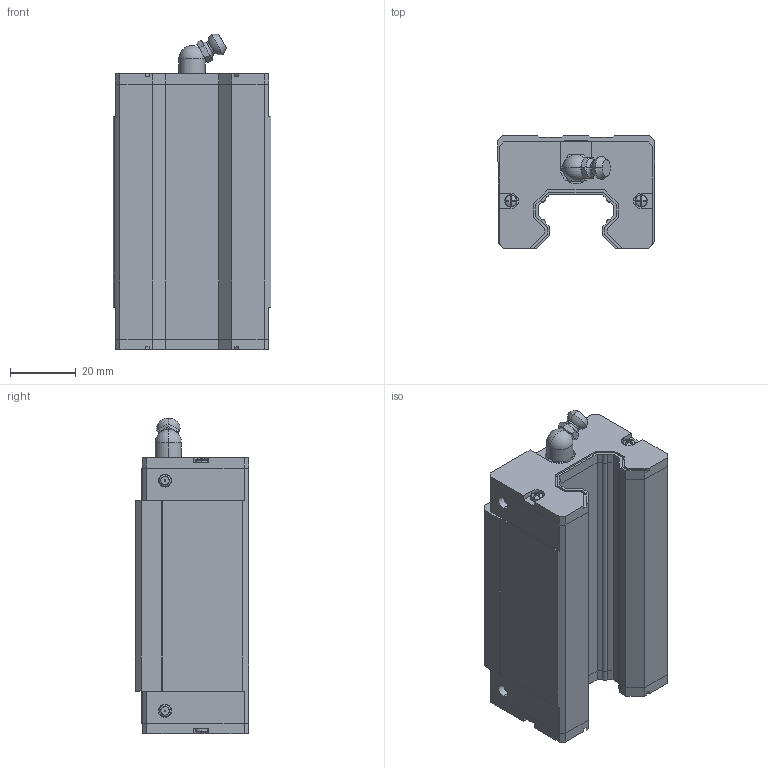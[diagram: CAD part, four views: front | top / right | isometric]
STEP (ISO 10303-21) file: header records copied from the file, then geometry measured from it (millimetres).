
FILE_DESCRIPTION (( 'STEP AP203' ), '1' );
FILE_NAME ('HGH25CA.STEP', '2021-10-22T07:51:30', ( '微软用户' ), ( '微软中国' ), 'SwSTEP 2.0', 'SolidWorks 2012', '' );
FILE_SCHEMA (( 'CONFIG_CONTROL_DESIGN' ));
Length unit declared in the file: millimetre
Products named in the file (1): HGH25CA
Bounding box: 48 x 34.4 x 96 mm (x, y, z)
Volume: 105083.5 mm3; surface area: 25343.1 mm2
Topology: 3 solids, 3 shells, 389 faces, 1026 edges, 665 vertices
Faces by surface type: plane 258, cylinder 74, cone 31, torus 20, sphere 6
Entity records: 12474 total; most frequent: CARTESIAN_POINT 2675, ORIENTED_EDGE 2028, DIRECTION 2015, EDGE_CURVE 1014, VECTOR 705, LINE 705, VERTEX_POINT 663, AXIS2_PLACEMENT_3D 655
